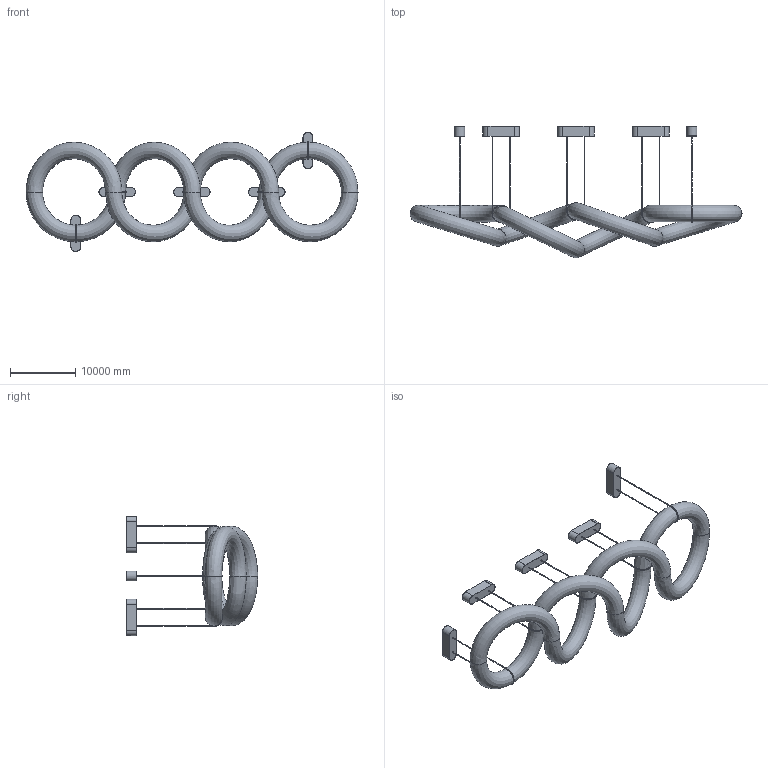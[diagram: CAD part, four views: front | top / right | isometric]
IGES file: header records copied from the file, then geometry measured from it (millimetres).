
Global section: file name: Twisted Ring Alabaster Chandelier-Model-C; native system: AutoCAD 2022 - 简体中文 (Simplified Chinese),62HAuto; preprocessor: desk Translation Framework DWG producer (atf_dwg_producer); organization: unknown; date: 20260103.114507; units: inch
Bounding box: 50845.72 x 20133.33 x 18281.69 mm (x, y, z)
Volume: 830829672257.9 mm3; surface area: 1594468857.4 mm2
Topology: 11 solids, 11 shells, 88 faces, 187 edges, 124 vertices
Faces by surface type: bspline 88
